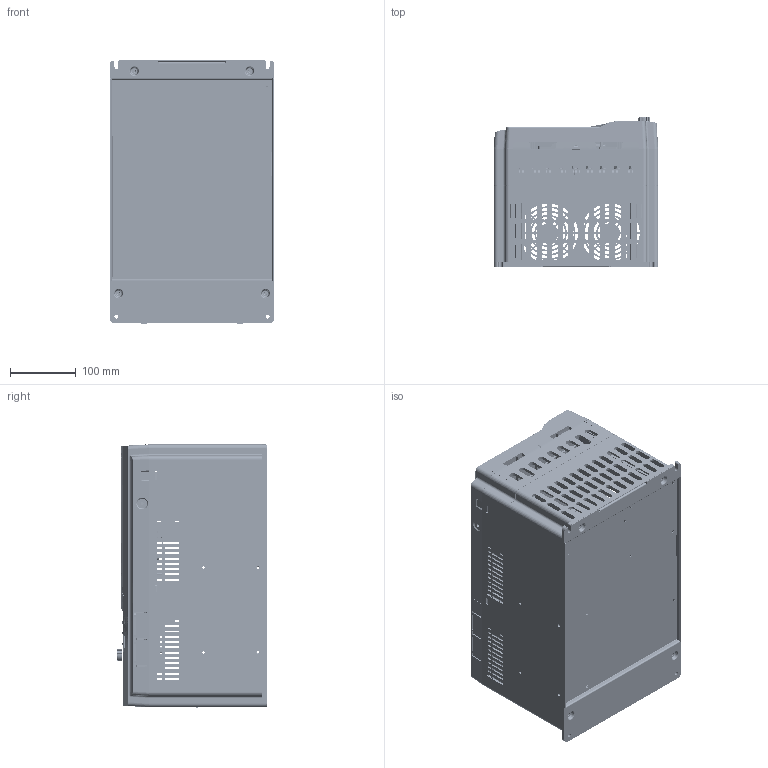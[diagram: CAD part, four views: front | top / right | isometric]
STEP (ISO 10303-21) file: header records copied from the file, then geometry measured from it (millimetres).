
FILE_DESCRIPTION((''),'2;1');
FILE_NAME('GD270-045-4_-L1_-C3_-EU__ASM','2025-04-10T10:14:30',('Administrator'),(''),'CREO PARAMETRIC BY PTC INC, 2019080','CREO PARAMETRIC BY PTC INC, 2019080','');
FILE_SCHEMA(('CONFIG_CONTROL_DESIGN'));
Products named in the file (28): 80740188_1_1; 80740187_1_1; 80740299_1_1; 80740184_1_1; 80740168_1_1; 80740168SY2_1_1; 80740168SY2_ASM_1_ASM_1_ASM; 80740157_1_1; 88170000JP_1_1; JP-NEW-PCB_1_1; 80740014_1_1; GD300-NEW-JP_ASM_1_ASM_1_ASM; 80740183_1_1; 80310368_1_1; E-TB09-22MM-T-F_1_1; 17003-04160_ASM_1_ASM_1_ASM; 17003-01762_ASM_1_1; 17003-03893_1_1; E-DIN0209-5_08MM-10_16MM-TMB_1_; E-DIN0203-5_08MM-TA_1_1; E-MJ0204-R_1_1; 17003-03893_ASM_1_ASM_1_ASM; 17003-01597_ASM_1_1; GD270-45KW-ES_ASM_1_ASM_1_ASM; 80780073_1_1; GD270-045G-4_ASM_1_ASM_1_ASM; GD270-045G-4_ASM_ASM_1_ASM; GD270-045-4_-L1_-C3_-EU__ASM
Assembly tree (27 placements, depth 6):
  GD270-045-4_-L1_-C3_-EU__ASM
    GD270-045G-4_ASM_ASM_1_ASM
      GD270-045G-4_ASM_1_ASM_1_ASM
        80740188_1_1
        80740187_1_1
        80740299_1_1
        80740184_1_1
        80740168SY2_ASM_1_ASM_1_ASM
          80740168_1_1
          80740168SY2_1_1
        GD300-NEW-JP_ASM_1_ASM_1_ASM
          80740157_1_1
          88170000JP_1_1
          JP-NEW-PCB_1_1
          80740014_1_1
        80740183_1_1
        80310368_1_1
        GD270-45KW-ES_ASM_1_ASM_1_ASM
          17003-04160_ASM_1_ASM_1_ASM
            E-TB09-22MM-T-F_1_1
          17003-01762_ASM_1_1
          17003-03893_ASM_1_ASM_1_ASM
            17003-03893_1_1
            E-DIN0209-5_08MM-10_16MM-TMB_1_
            E-DIN0203-5_08MM-TA_1_1
            E-MJ0204-R_1_1
          17003-01597_ASM_1_1
        80780073_1_1
Bounding box: 250 x 228.1 x 401.49 mm (x, y, z)
Volume: 1846444.9 mm3; surface area: 1533047.1 mm2
Topology: 17 solids, 17 shells, 9786 faces, 27797 edges, 18220 vertices
Faces by surface type: plane 6669, cylinder 2296, cone 365, torus 216, bspline 122, extrusion 110, sphere 8
Entity records: 333554 total; most frequent: CARTESIAN_POINT 77218, ORIENTED_EDGE 55576, DIRECTION 50041, EDGE_CURVE 27788, VECTOR 20247, LINE 20137, VERTEX_POINT 18220, AXIS2_PLACEMENT_3D 14897
